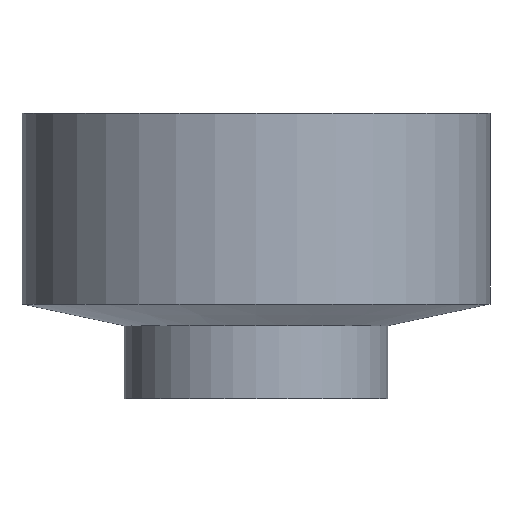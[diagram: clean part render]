
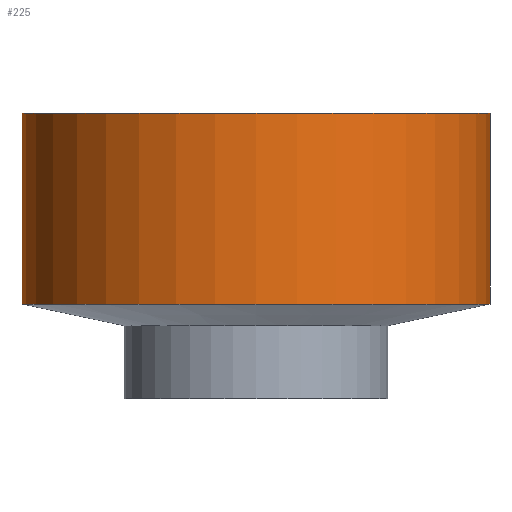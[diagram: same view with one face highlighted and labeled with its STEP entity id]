
A CAD part, front view. The second image highlights one B-rep face of the part: STEP entity #225.
In plain terms, the highlighted cylindrical face has radius 59.4 mm (diameter 118.8 mm), a partial arc.
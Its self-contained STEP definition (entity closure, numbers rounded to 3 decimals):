
#3 = VERTEX_POINT ( 'NONE', #13 ) ;
#13 = CARTESIAN_POINT ( 'NONE',  ( -59.4, 0., 24. ) ) ;
#17 = VECTOR ( 'NONE', #306, 1000. ) ;
#28 = CARTESIAN_POINT ( 'NONE',  ( 0., 0., 72.4 ) ) ;
#33 = EDGE_CURVE ( 'NONE', #82, #118, #125, .T. ) ;
#36 = CYLINDRICAL_SURFACE ( 'NONE', #458, 59.4 ) ;
#50 = EDGE_CURVE ( 'NONE', #118, #145, #500, .T. ) ;
#53 = ORIENTED_EDGE ( 'NONE', *, *, #180, .F. ) ;
#57 = DIRECTION ( 'NONE',  ( 0., 0., 1. ) ) ;
#62 = CARTESIAN_POINT ( 'NONE',  ( 59.4, 0., 72.4 ) ) ;
#79 = CARTESIAN_POINT ( 'NONE',  ( -59.4, 0., 72.4 ) ) ;
#82 = VERTEX_POINT ( 'NONE', #467 ) ;
#113 = LINE ( 'NONE', #79, #17 ) ;
#117 = DIRECTION ( 'NONE',  ( 0., 0., -1. ) ) ;
#118 = VERTEX_POINT ( 'NONE', #62 ) ;
#125 = CIRCLE ( 'NONE', #514, 59.4 ) ;
#140 = DIRECTION ( 'NONE',  ( 1., 0., 0. ) ) ;
#145 = VERTEX_POINT ( 'NONE', #471 ) ;
#149 = CIRCLE ( 'NONE', #276, 59.4 ) ;
#180 = EDGE_CURVE ( 'NONE', #145, #3, #149, .T. ) ;
#195 = DIRECTION ( 'NONE',  ( 0., 0., -1. ) ) ;
#200 = DIRECTION ( 'NONE',  ( -1., 0., 0. ) ) ;
#206 = ORIENTED_EDGE ( 'NONE', *, *, #222, .T. ) ;
#222 = EDGE_CURVE ( 'NONE', #82, #3, #113, .T. ) ;
#225 = ADVANCED_FACE ( 'NONE', ( #395 ), #36, .T. ) ;
#230 = DIRECTION ( 'NONE',  ( 0., 0., -1. ) ) ;
#244 = VECTOR ( 'NONE', #230, 1000. ) ;
#266 = CARTESIAN_POINT ( 'NONE',  ( 0., 0., 72.4 ) ) ;
#276 = AXIS2_PLACEMENT_3D ( 'NONE', #478, #117, #350 ) ;
#299 = CARTESIAN_POINT ( 'NONE',  ( 59.4, 0., 72.4 ) ) ;
#306 = DIRECTION ( 'NONE',  ( 0., 0., -1. ) ) ;
#333 = EDGE_LOOP ( 'NONE', ( #435, #450, #206, #53 ) ) ;
#350 = DIRECTION ( 'NONE',  ( -1., 0., 0. ) ) ;
#395 = FACE_OUTER_BOUND ( 'NONE', #333, .T. ) ;
#435 = ORIENTED_EDGE ( 'NONE', *, *, #50, .F. ) ;
#450 = ORIENTED_EDGE ( 'NONE', *, *, #33, .F. ) ;
#458 = AXIS2_PLACEMENT_3D ( 'NONE', #28, #195, #200 ) ;
#467 = CARTESIAN_POINT ( 'NONE',  ( -59.4, 0., 72.4 ) ) ;
#471 = CARTESIAN_POINT ( 'NONE',  ( 59.4, 0., 24. ) ) ;
#478 = CARTESIAN_POINT ( 'NONE',  ( 0., 0., 24. ) ) ;
#500 = LINE ( 'NONE', #299, #244 ) ;
#514 = AXIS2_PLACEMENT_3D ( 'NONE', #266, #57, #140 ) ;
